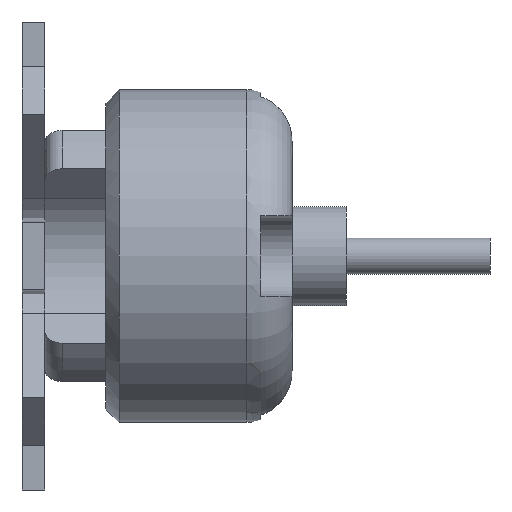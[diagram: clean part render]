
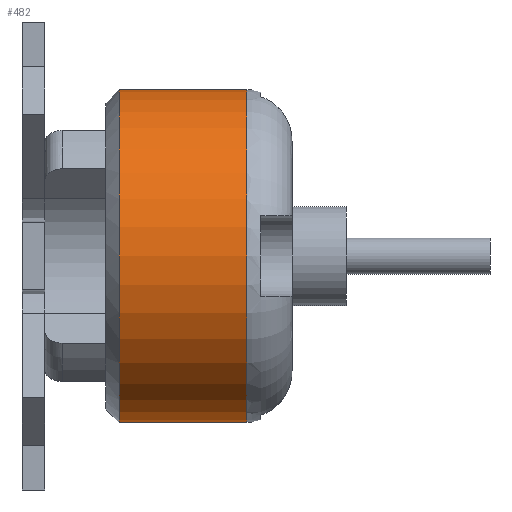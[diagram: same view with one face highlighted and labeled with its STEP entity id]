
A CAD part, front view. The second image highlights one B-rep face of the part: STEP entity #482.
In plain terms, the highlighted cylindrical face has radius 18.5 mm (diameter 37 mm), a full revolution.
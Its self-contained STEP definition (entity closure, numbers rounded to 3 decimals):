
#482 = ADVANCED_FACE( '', ( #901, #902 ), #903, .T. );
#901 = FACE_OUTER_BOUND( '', #1176, .T. );
#902 = FACE_OUTER_BOUND( '', #1177, .T. );
#903 = CYLINDRICAL_SURFACE( '', #1178, 18.5 );
#1176 = EDGE_LOOP( '', ( #1731 ) );
#1177 = EDGE_LOOP( '', ( #1732 ) );
#1178 = AXIS2_PLACEMENT_3D( '', #1733, #1734, #1735 );
#1731 = ORIENTED_EDGE( '', *, *, #2182, .T. );
#1732 = ORIENTED_EDGE( '', *, *, #2110, .T. );
#1733 = CARTESIAN_POINT( '', ( 27.5, 0., 0. ) );
#1734 = DIRECTION( '', ( 1., 0., 0. ) );
#1735 = DIRECTION( '', ( 0., 0., 1. ) );
#2110 = EDGE_CURVE( '', #2414, #2414, #2415, .T. );
#2182 = EDGE_CURVE( '', #2533, #2533, #2534, .T. );
#2414 = VERTEX_POINT( '', #2726 );
#2415 = CIRCLE( '', #2727, 18.5 );
#2533 = VERTEX_POINT( '', #2961 );
#2534 = CIRCLE( '', #2962, 18.5 );
#2726 = CARTESIAN_POINT( '', ( 8.3, 0., -18.5 ) );
#2727 = AXIS2_PLACEMENT_3D( '', #3213, #3214, #3215 );
#2961 = CARTESIAN_POINT( '', ( 22.5, -18.5, 0. ) );
#2962 = AXIS2_PLACEMENT_3D( '', #3347, #3348, #3349 );
#3213 = CARTESIAN_POINT( '', ( 8.3, 0., 0. ) );
#3214 = DIRECTION( '', ( 1., 0., 0. ) );
#3215 = DIRECTION( '', ( 0., 0., -1. ) );
#3347 = CARTESIAN_POINT( '', ( 22.5, 0., 0. ) );
#3348 = DIRECTION( '', ( -1., 0., 0. ) );
#3349 = DIRECTION( '', ( 0., -1., 0. ) );
